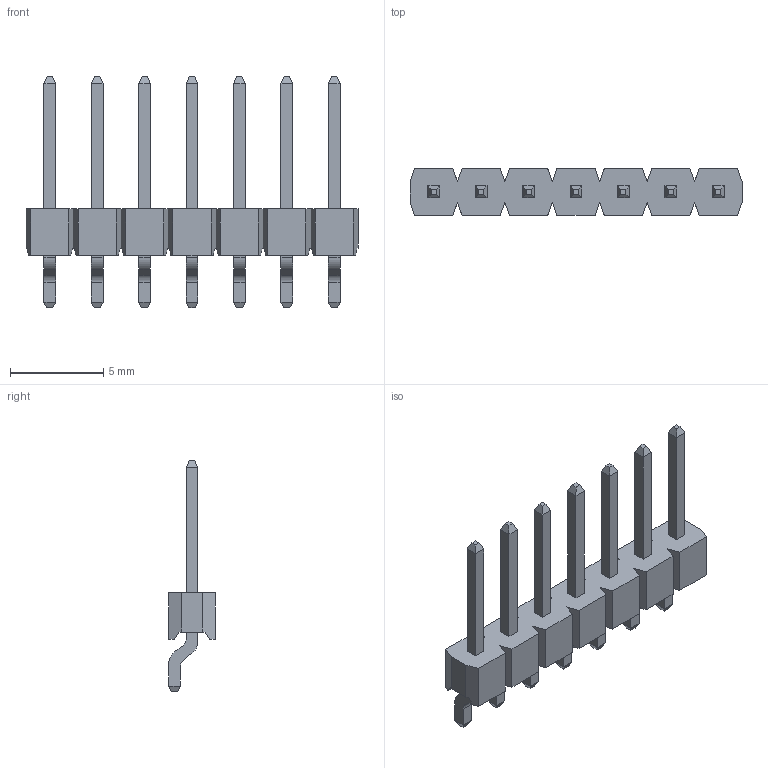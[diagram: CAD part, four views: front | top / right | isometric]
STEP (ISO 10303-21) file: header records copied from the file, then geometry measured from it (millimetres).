
FILE_DESCRIPTION(/* description */ (''),/* implementation_level */ '2;1');
FILE_NAME(/* name */ '961107-5900-XX-XX.stp',/* time_stamp */ '2008-06-11T13:27:52+02:00',/* author */ (''),/* organization */ (''),/* preprocessor_version */ 'ST-DEVELOPER v11',/* originating_system */ 'UGS - NX 5.0',/* authorisation */ '');
FILE_SCHEMA (('AUTOMOTIVE_DESIGN { 1 0 10303 214 1 1 1 1 }'));
Length unit declared in the file: millimetre
Products named in the file (1): 961107-5900-XX-XX
Bounding box: 17.78 x 2.5 x 12.4 mm (x, y, z)
Volume: 122.3 mm3; surface area: 398 mm2
Topology: 1 solids, 1 shells, 256 faces, 664 edges, 424 vertices
Faces by surface type: plane 228, cylinder 28
Entity records: 7660 total; most frequent: CARTESIAN_POINT 1345, ORIENTED_EDGE 1328, DIRECTION 1234, EDGE_CURVE 664, LINE 608, VECTOR 608, VERTEX_POINT 424, AXIS2_PLACEMENT_3D 313
